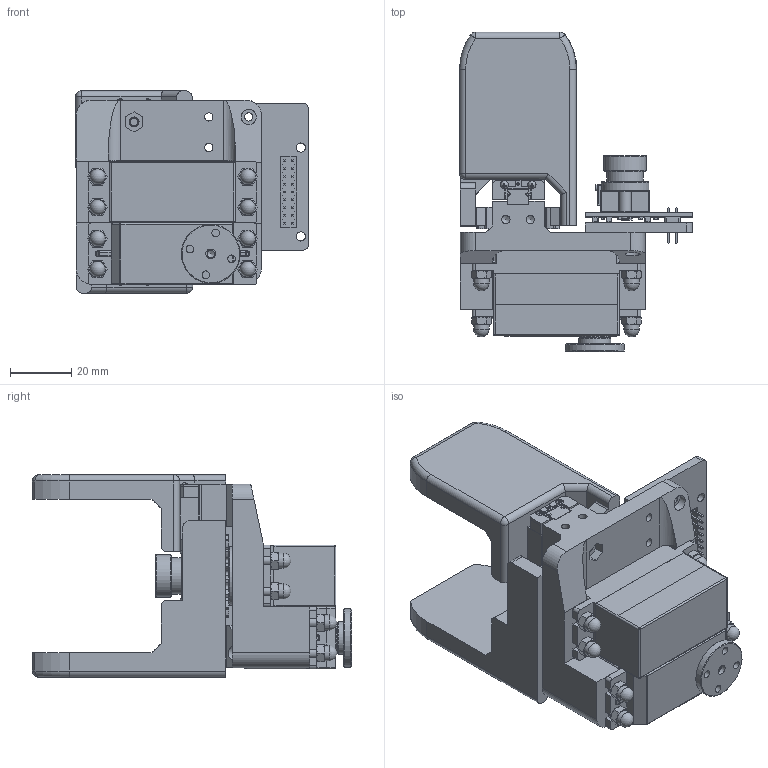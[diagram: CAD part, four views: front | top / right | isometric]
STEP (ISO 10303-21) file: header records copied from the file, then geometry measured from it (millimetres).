
FILE_DESCRIPTION(/* description */ ('STEP AP203'),/* implementation_level */ '2;1');
FILE_NAME(/* name */ 'gripper MGN7 small.stp',/* time_stamp */ '2026-02-18T21:19:36+01:00',/* author */ ('R5800u'),/* organization */ (''),/* preprocessor_version */ 'ST-DEVELOPER v20',/* originating_system */ 'Autodesk Inventor 2025',/* authorisation */ '');
FILE_SCHEMA (('AUTOMOTIVE_DESIGN { 1 0 10303 214 3 1 1 }'));
Products named in the file (14): MGN7 with rail; MGN7 rail_100 mm; MGN7C_MGN7C; cremagliera2; pignone; cremagliera; 金属舵盘（驱动）; blocco_guida; TD-9512MG v1; AS 1420 - 1973 - M3 x 12; ANSI B18.3.1M - M3x0,5 x 25, FSHCSM; UN 5721 - M3; Camera OV7670; piastra_camera
Assembly tree (29 placements, depth 2):
  MGN7 with rail
    MGN7 rail_100 mm
    MGN7C_MGN7C  x2
    cremagliera2
    pignone
    TD-9512MG v1  x2
    金属舵盘（驱动）  x2
    cremagliera
    blocco_guida
    AS 1420 - 1973 - M3 x 12  x4
    ANSI B18.3.1M - M3x0,5 x 25, FSHCSM  x4
    UN 5721 - M3  x8
    Camera OV7670
    piastra_camera
Bounding box: 76 x 104.1 x 66 mm (x, y, z)
Volume: 144682.6 mm3; surface area: 74933.8 mm2
Topology: 75 solids, 75 shells, 3429 faces, 8481 edges, 5160 vertices
Faces by surface type: plane 1967, cylinder 830, sphere 252, cone 185, bspline 146, torus 49
Full cylindrical faces by diameter (mm): 0.8 x8, 1 x18, 1.5 x2, 1.6 x10, 1.8 x2, 2 x1, 2.4 x4, 2.459 x10, 2.5 x8, 2.659 x8, 2.7 x17, 3 x16, 3.2 x18, 4.2 x4, 4.5 x8, 4.901 x2, 5 x9, 5.5 x9, 5.6 x10, 6.2 x2, 6.5 x1, 10 x2, 10.6 x2, 12 x1, 14 x1, 15.6 x1, 19.2 x2
Entity records: 86674 total; most frequent: CARTESIAN_POINT 22687, DIRECTION 12816, ORIENTED_EDGE 12812, EDGE_CURVE 6406, LINE 4362, VECTOR 4362, AXIS2_PLACEMENT_3D 4227, VERTEX_POINT 3928
